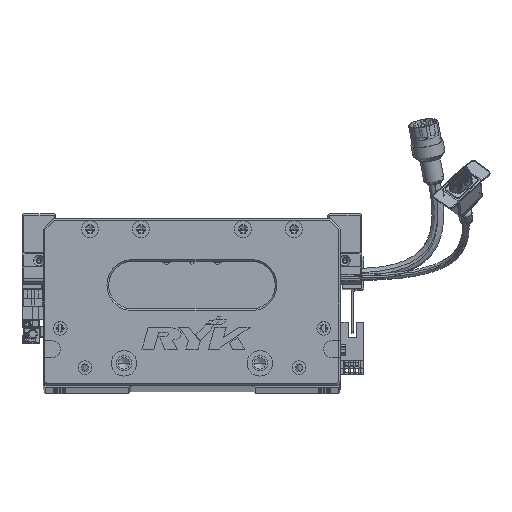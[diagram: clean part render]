
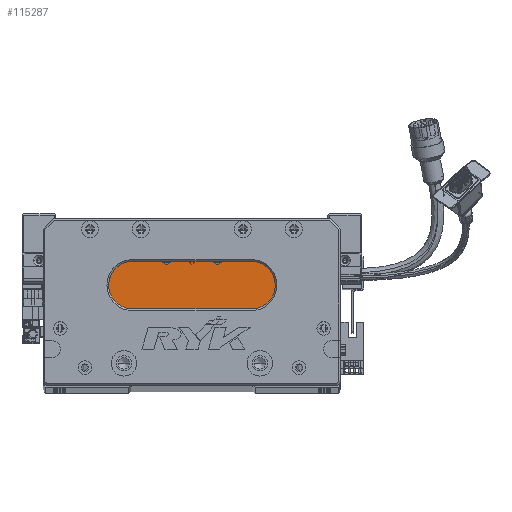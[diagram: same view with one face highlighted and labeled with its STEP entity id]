
A CAD part, top view. The second image highlights one B-rep face of the part: STEP entity #115287.
In plain terms, the highlighted planar face has unit normal (0, 0, 1) as drawn and (0, 0, -1) by its records, which use the part's own axes.
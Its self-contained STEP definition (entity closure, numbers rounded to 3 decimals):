
#5056 = CARTESIAN_POINT ( 'NONE',  ( 52.5, 45., 18. ) ) ;
#5691 = VERTEX_POINT ( 'NONE', #5056 ) ;
#5931 = VERTEX_POINT ( 'NONE', #25155 ) ;
#6256 = CARTESIAN_POINT ( 'NONE',  ( 122.5, 45., 18. ) ) ;
#13056 = CARTESIAN_POINT ( 'NONE',  ( 52.5, 59., 18. ) ) ;
#14595 = ORIENTED_EDGE ( 'NONE', *, *, #53451, .T. ) ;
#17979 = CIRCLE ( 'NONE', #58896, 14. ) ;
#19231 = VERTEX_POINT ( 'NONE', #103290 ) ;
#22306 = DIRECTION ( 'NONE',  ( 0., 0., -1. ) ) ;
#24162 = CARTESIAN_POINT ( 'NONE',  ( 52.5, 59., 18. ) ) ;
#25155 = CARTESIAN_POINT ( 'NONE',  ( 122.5, 45., 18. ) ) ;
#25559 = DIRECTION ( 'NONE',  ( -1., 0., 0. ) ) ;
#29669 = CIRCLE ( 'NONE', #52803, 14. ) ;
#34609 = FACE_OUTER_BOUND ( 'NONE', #96127, .T. ) ;
#35272 = DIRECTION ( 'NONE',  ( -1., 0., 0. ) ) ;
#35419 = PLANE ( 'NONE',  #66879 ) ;
#36612 = DIRECTION ( 'NONE',  ( -1., 0., 0. ) ) ;
#37574 = ORIENTED_EDGE ( 'NONE', *, *, #68789, .T. ) ;
#37662 = CARTESIAN_POINT ( 'NONE',  ( 122.5, 73., 18. ) ) ;
#45026 = CARTESIAN_POINT ( 'NONE',  ( 122.5, 59., 18. ) ) ;
#45933 = CARTESIAN_POINT ( 'NONE',  ( 122.5, 59., 18. ) ) ;
#52803 = AXIS2_PLACEMENT_3D ( 'NONE', #24162, #71148, #118253 ) ;
#53099 = LINE ( 'NONE', #111787, #103947 ) ;
#53451 = EDGE_CURVE ( 'NONE', #109463, #5931, #98992, .T. ) ;
#56825 = CARTESIAN_POINT ( 'NONE',  ( 38.5, 59., 18. ) ) ;
#58896 = AXIS2_PLACEMENT_3D ( 'NONE', #13056, #22306, #59184 ) ;
#59184 = DIRECTION ( 'NONE',  ( -1., 0., 0. ) ) ;
#59186 = ORIENTED_EDGE ( 'NONE', *, *, #88484, .T. ) ;
#59353 = ORIENTED_EDGE ( 'NONE', *, *, #76520, .T. ) ;
#62558 = VERTEX_POINT ( 'NONE', #56825 ) ;
#62987 = DIRECTION ( 'NONE',  ( 0., 0., -1. ) ) ;
#66879 = AXIS2_PLACEMENT_3D ( 'NONE', #45933, #62987, #36612 ) ;
#68789 = EDGE_CURVE ( 'NONE', #62558, #19231, #29669, .T. ) ;
#71148 = DIRECTION ( 'NONE',  ( 0., 0., -1. ) ) ;
#76520 = EDGE_CURVE ( 'NONE', #5691, #62558, #17979, .T. ) ;
#83789 = DIRECTION ( 'NONE',  ( 1., 0., 0. ) ) ;
#87594 = VECTOR ( 'NONE', #25559, 1000. ) ;
#87741 = ORIENTED_EDGE ( 'NONE', *, *, #90241, .T. ) ;
#88484 = EDGE_CURVE ( 'NONE', #19231, #109463, #53099, .T. ) ;
#90241 = EDGE_CURVE ( 'NONE', #5931, #5691, #113775, .T. ) ;
#96127 = EDGE_LOOP ( 'NONE', ( #14595, #87741, #59353, #37574, #59186 ) ) ;
#98992 = CIRCLE ( 'NONE', #100399, 14. ) ;
#100399 = AXIS2_PLACEMENT_3D ( 'NONE', #45026, #119673, #35272 ) ;
#103290 = CARTESIAN_POINT ( 'NONE',  ( 52.5, 73., 18. ) ) ;
#103947 = VECTOR ( 'NONE', #83789, 1000. ) ;
#109463 = VERTEX_POINT ( 'NONE', #37662 ) ;
#111787 = CARTESIAN_POINT ( 'NONE',  ( 122.5, 73., 18. ) ) ;
#113775 = LINE ( 'NONE', #6256, #87594 ) ;
#115287 = ADVANCED_FACE ( 'NONE', ( #34609 ), #35419, .T. ) ;
#118253 = DIRECTION ( 'NONE',  ( -1., 0., 0. ) ) ;
#119673 = DIRECTION ( 'NONE',  ( 0., 0., -1. ) ) ;
